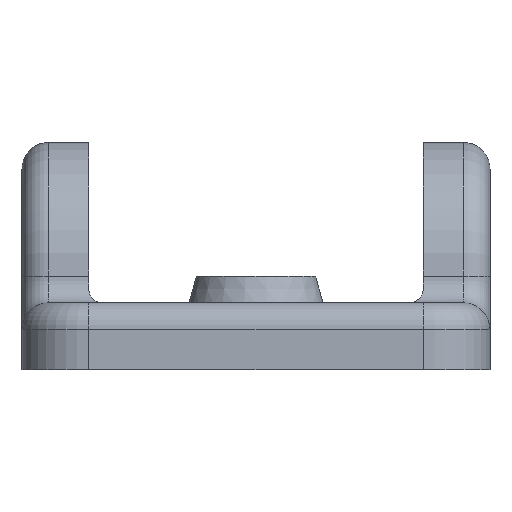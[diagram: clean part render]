
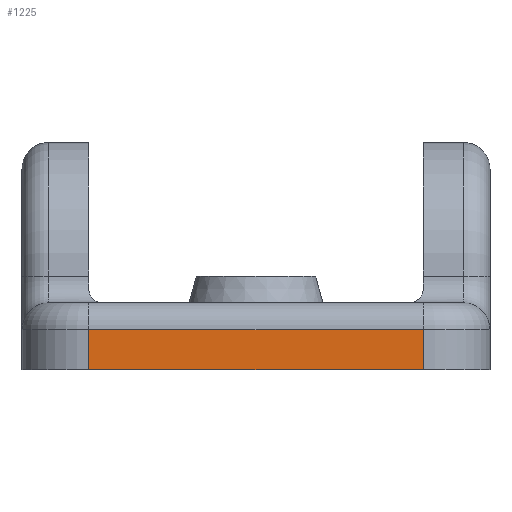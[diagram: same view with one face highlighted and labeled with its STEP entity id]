
A CAD part, front view. The second image highlights one B-rep face of the part: STEP entity #1225.
In plain terms, the highlighted planar face has unit normal (0, -1, 0).
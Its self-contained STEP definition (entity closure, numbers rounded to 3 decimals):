
#4 = EDGE_CURVE ( 'NONE', #288, #218, #273, .T. ) ;
#9 = EDGE_CURVE ( 'NONE', #218, #152, #261, .T. ) ;
#12 = EDGE_CURVE ( 'NONE', #152, #246, #318, .T. ) ;
#13 = EDGE_CURVE ( 'NONE', #246, #288, #310, .T. ) ;
#135 = EDGE_LOOP ( 'NONE', ( #965, #967, #787, #790 ) ) ;
#152 = VERTEX_POINT ( 'NONE', #1518 ) ;
#218 = VERTEX_POINT ( 'NONE', #1402 ) ;
#246 = VERTEX_POINT ( 'NONE', #1429 ) ;
#261 = LINE ( 'NONE', #1584, #316 ) ;
#271 = VECTOR ( 'NONE', #1597, 1000. ) ;
#273 = LINE ( 'NONE', #1594, #271 ) ;
#288 = VERTEX_POINT ( 'NONE', #1447 ) ;
#304 = VECTOR ( 'NONE', #1189, 1000. ) ;
#308 = VECTOR ( 'NONE', #1210, 1000. ) ;
#310 = LINE ( 'NONE', #1190, #304 ) ;
#316 = VECTOR ( 'NONE', #1596, 1000. ) ;
#318 = LINE ( 'NONE', #1195, #308 ) ;
#568 = FACE_OUTER_BOUND ( 'NONE', #135, .T. ) ;
#787 = ORIENTED_EDGE ( 'NONE', *, *, #13, .T. ) ;
#790 = ORIENTED_EDGE ( 'NONE', *, *, #4, .T. ) ;
#965 = ORIENTED_EDGE ( 'NONE', *, *, #9, .T. ) ;
#967 = ORIENTED_EDGE ( 'NONE', *, *, #12, .T. ) ;
#1189 = DIRECTION ( 'NONE',  ( 0., 0., -1. ) ) ;
#1190 = CARTESIAN_POINT ( 'NONE',  ( -12.5, -50., 5. ) ) ;
#1195 = CARTESIAN_POINT ( 'NONE',  ( -17.5, -50., 3. ) ) ;
#1210 = DIRECTION ( 'NONE',  ( -1., 0., 0. ) ) ;
#1225 = ADVANCED_FACE ( 'NONE', ( #568 ), #1311, .F. ) ;
#1310 = CARTESIAN_POINT ( 'NONE',  ( -17.5, -50., 5. ) ) ;
#1311 = PLANE ( 'NONE',  #2091 ) ;
#1315 = DIRECTION ( 'NONE',  ( 0., 1., 0. ) ) ;
#1316 = DIRECTION ( 'NONE',  ( 0., 0., 1. ) ) ;
#1402 = CARTESIAN_POINT ( 'NONE',  ( 12.5, -50., 0. ) ) ;
#1429 = CARTESIAN_POINT ( 'NONE',  ( -12.5, -50., 3. ) ) ;
#1447 = CARTESIAN_POINT ( 'NONE',  ( -12.5, -50., 0. ) ) ;
#1518 = CARTESIAN_POINT ( 'NONE',  ( 12.5, -50., 3. ) ) ;
#1584 = CARTESIAN_POINT ( 'NONE',  ( 12.5, -50., 5. ) ) ;
#1594 = CARTESIAN_POINT ( 'NONE',  ( -17.5, -50., 0. ) ) ;
#1596 = DIRECTION ( 'NONE',  ( 0., 0., 1. ) ) ;
#1597 = DIRECTION ( 'NONE',  ( 1., 0., 0. ) ) ;
#2091 = AXIS2_PLACEMENT_3D ( 'NONE', #1310, #1315, #1316 ) ;
